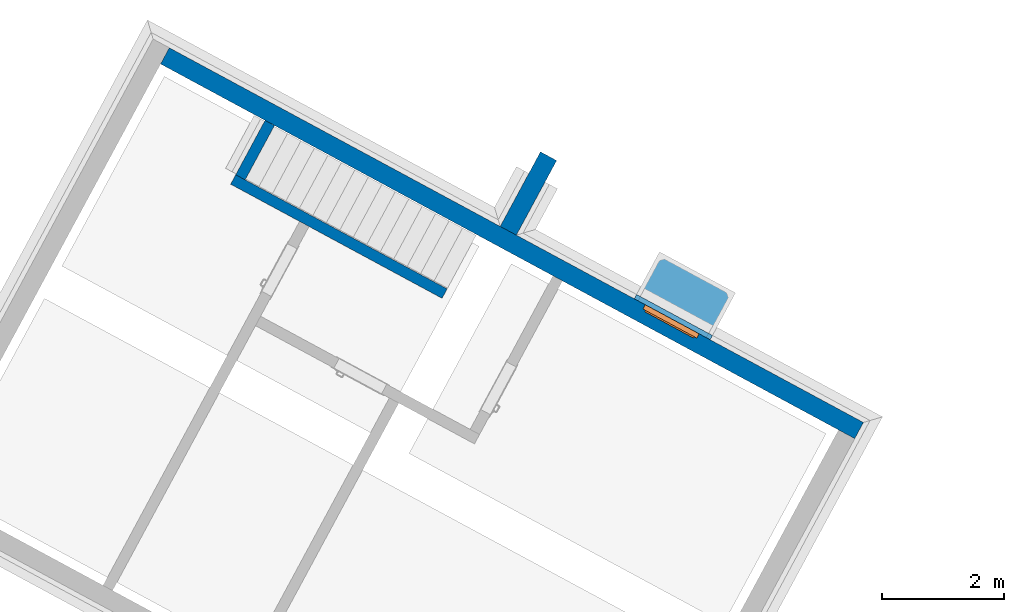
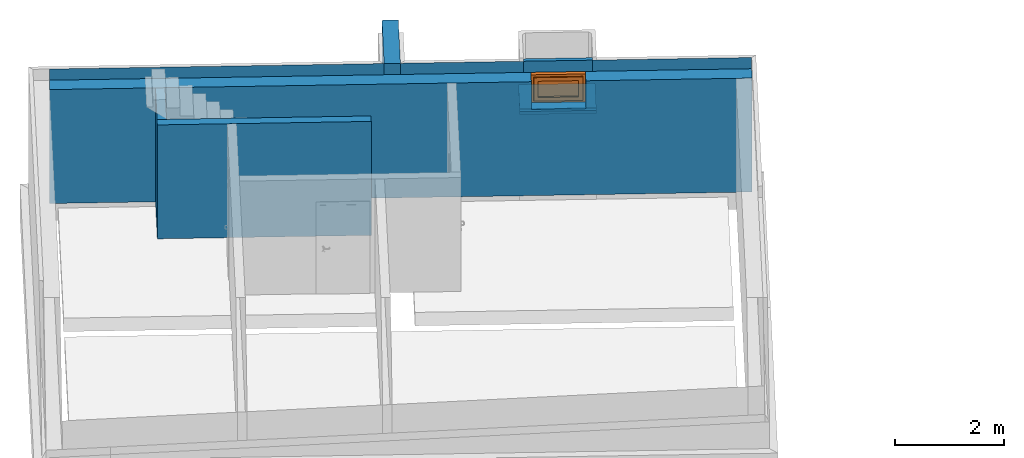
# One storey, part 4 of 7: 7 walls, 1 proxy, 2 openings.
"""IFC2X3 building model written with IfcOpenShell, lengths in metres."""

from ifc_helpers import new_model, entity, si_unit, converted_unit, derived_unit, money_unit, direction, frame, origin_with_axes, origin_2d_with_axis, place, context, subcontext, project, spatial, rectangle, extrude, faceted_brep, material, type_object, element, fill, save


model = new_model("IFC2X3")

# Units and contexts
model_context = context("Model", 3, precision=1e-05, world=origin_with_axes(), true_north=direction((0.0, 1.0)))
body_context = subcontext(model_context, "Body", "Model", "MODEL_VIEW")
ifc_project = project(units=[si_unit("LENGTHUNIT", "METRE"), si_unit("AREAUNIT", "SQUARE_METRE"), si_unit("VOLUMEUNIT", "CUBIC_METRE"), converted_unit("PLANEANGLEUNIT", "DEGREE", entity("IfcPlaneAngleMeasure", 0.0174532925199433), si_unit("PLANEANGLEUNIT", "RADIAN"), dimensions=[0, 0, 0, 0, 0, 0, 0]), money_unit("EUR"), converted_unit("TIMEUNIT", "Year", entity("IfcTimeMeasure", 31556926.0), si_unit("TIMEUNIT", "SECOND"), dimensions=[0, 0, 1, 0, 0, 0, 0]), si_unit("MASSUNIT", "GRAM", prefix="KILO"), si_unit("THERMODYNAMICTEMPERATUREUNIT", "DEGREE_CELSIUS"), si_unit("LUMINOUSINTENSITYUNIT", "LUMEN"), si_unit("ENERGYUNIT", "JOULE", prefix="MEGA"), derived_unit("THERMALCONDUCTANCEUNIT", [(si_unit("POWERUNIT", "WATT"), 1), (si_unit("LENGTHUNIT", "METRE"), -1), (si_unit("THERMODYNAMICTEMPERATUREUNIT", "KELVIN"), -1)]), derived_unit("SPECIFICHEATCAPACITYUNIT", [(si_unit("ENERGYUNIT", "JOULE"), 1), (si_unit("MASSUNIT", "GRAM", prefix="KILO"), -1), (si_unit("THERMODYNAMICTEMPERATUREUNIT", "KELVIN"), -1)]), derived_unit("MASSDENSITYUNIT", [(si_unit("MASSUNIT", "GRAM", prefix="KILO"), 1), (si_unit("VOLUMEUNIT", "CUBIC_METRE"), -1)])], contexts=[model_context])

# Site, building, storey
site_placement = place(None, frame((-3.949935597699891, 1.740105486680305, 0.0), z_axis=(0.0, 0.0, 1.0), x_axis=(0.8799804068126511, -0.475009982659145, 0.0)))
site = spatial("IfcSite", under=ifc_project, at=site_placement, Name="Gelände", CompositionType="ELEMENT")
building_placement = place(site_placement, origin_with_axes())
building = spatial("IfcBuilding", under=site, at=building_placement, Name="Gebäude", CompositionType="ELEMENT")
storey_placement = place(building_placement, frame((0.0, 0.0, -2.98), z_axis=(0.0, 0.0, 1.0), x_axis=(1.0, 0.0, 0.0)))
storey = spatial("IfcBuildingStorey", under=building, at=storey_placement, Name="Kellergeschoss", CompositionType="ELEMENT", Elevation=-2.98)

# Walls
ifc_material_1 = material(Name="_SIWH - MW Kalksandstein")
wall_type_1 = type_object("IfcWallType", Name="_SIWH - WI | KS 17,5 | 17,5cm 175", PredefinedType="NOTDEFINED")
wall_1_placement = place(storey_placement, frame((6.597401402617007, 17.89028332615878, 0.0), z_axis=(0.0, 0.0, 1.0), x_axis=(-5.374643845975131e-06, 0.9999999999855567, 0.0)))
element("IfcWall", 1, at=wall_1_placement, inside=storey, type_object=wall_type_1, material=ifc_material_1, Name="I-Wand034", context=body_context, shape_type="Brep", body=[
    faceted_brep([(1.010001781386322, 0.0, 2.55), (1.010001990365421, 0.1749999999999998, 2.55), (1.25825589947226e-07, 0.1749999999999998, 2.55), (0.0, 0.0, 2.55), (1.010001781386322, 0.0, 0.0), (1.010001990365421, 0.1749999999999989, 0.0), (1.25825589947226e-07, 0.1749999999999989, 0.0), (0.0, 0.0, 0.0)], [[[0, 1, 2, 3]], [[1, 0, 4, 5]], [[1, 5, 6, 2]], [[7, 3, 2, 6]], [[4, 0, 3, 7]], [[5, 4, 7, 6]]]),
])
wall_2_placement = place(storey_placement, frame((10.34740135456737, 17.89030078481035, 0.0), z_axis=(0.0, 0.0, 1.0), x_axis=(-0.9999999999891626, -4.655640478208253e-06, 0.0)))
element("IfcWall", 2, at=wall_2_placement, inside=storey, type_object=wall_type_1, material=ifc_material_1, Name="I-Wand029", context=body_context, shape_type="Brep", body=[
    faceted_brep([(3.924999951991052, 0.0, 2.55), (3.924999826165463, 0.1750000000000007, 2.55), (0.0, 0.1749999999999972, 2.55), (0.0, 0.0, 2.55), (3.924999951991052, 0.0, 0.0), (3.924999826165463, 0.1750000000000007, 0.0), (0.0, 0.1749999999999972, 0.0), (0.0, 0.0, 0.0)], [[[0, 1, 2, 3]], [[1, 0, 4, 5]], [[1, 5, 6, 2]], [[7, 3, 2, 6]], [[4, 0, 3, 7]], [[5, 4, 7, 6]]]),
])

# Wall, opening, proxy
ifc_material_2 = material(Name="_SIWH - Beton, Stahlbeton")
wall_type_2 = type_object("IfcWallType", Name="_SIWH - WA | Stb. 30 | 30cm 300", PredefinedType="NOTDEFINED")
wall_3_placement = place(storey_placement, frame((4.182481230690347, 19.2003203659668, 0.0), z_axis=(0.0, 0.0, 1.0), x_axis=(1.0, 0.0, 0.0)))
wall_3 = element("IfcWall", 3, at=wall_3_placement, inside=storey, type_object=wall_type_2, material=ifc_material_2, Name="A-Wand039", context=body_context, shape_type="Brep", body=[
    faceted_brep([(9.134995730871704, -4.477729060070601e-05, 2.55), (10.1349957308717, -4.497759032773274e-05, 2.55), (13.1849946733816, -4.558850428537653e-05, 2.55), (13.1849946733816, -4.558850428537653e-05, 2.8), (0.3000000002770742, -4.300764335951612e-05, 2.8), (0.3000000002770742, -4.300764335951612e-05, 2.55), (9.134995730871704, 0.0, 2.55), (10.1349957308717, 0.0, 2.55), (10.1349957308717, -0.3000000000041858, 2.55), (13.18499601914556, -0.3000000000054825, 2.55), (13.18499724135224, -0.3000000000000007, 0.0), (13.18499704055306, 0.0, 0.0), (13.18499704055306, 0.0, 2.8), (0.3000000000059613, 0.0, 2.8), (0.3000000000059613, 0.0, 0.0), (0.3000018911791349, -0.3000000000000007, 0.0), (0.3000018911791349, -0.3000000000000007, 2.55), (9.134995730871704, -0.3000000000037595, 2.55), (9.134995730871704, 0.0, 1.925), (10.1349957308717, 0.0, 1.925), (10.1349957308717, -0.3000000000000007, 1.925), (9.134995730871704, -0.3000000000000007, 1.925)], [[[0, 1, 2, 3, 4, 5]], [[6, 7, 1, 0]], [[1, 8, 9, 2]], [[9, 10, 11, 12, 3, 2]], [[13, 4, 3, 12]], [[4, 13, 14, 15, 16, 5]], [[17, 0, 5, 16]], [[13, 12, 11, 14], [18, 19, 7, 6]], [[7, 19, 20, 8, 1]], [[18, 6, 0, 17, 21]], [[21, 17, 16, 15, 10, 9, 8, 20]], [[14, 11, 10, 15]], [[19, 18, 21, 20]]]),
])
opening_1_placement = place(wall_3_placement, frame((9.634995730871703, 0.0, 1.925), z_axis=(0.0, 0.0, 1.0), x_axis=(1.0, 0.0, 0.0)))
opening_1 = element("IfcOpeningElement", 4, at=opening_1_placement, cuts=wall_3, Name="Fenster-016", context=body_context, shape_type="SweptSolid", body=[
    extrude(rectangle(XDim=1.0, YDim=0.625, at=origin_2d_with_axis()), frame((0.0, -0.3000000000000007, 0.3125), z_axis=(0.0, -1.0, 0.0), x_axis=(1.0, 0.0, 0.0)), (0.0, 0.0, -1.0), 0.8999999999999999),
])
building_element_proxy_type = type_object("IfcBuildingElementProxyType", Name="1-Flügelfenster 22", PredefinedType="NOTDEFINED")
proxy_placement = place(opening_1_placement, frame((0.4999999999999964, 0.0, 0.0), z_axis=(0.0, 0.0, 1.0), x_axis=(-1.0, 0.0, 0.0)))
proxy = element("IfcBuildingElementProxy", 5, at=proxy_placement, inside=storey, type_object=building_element_proxy_type, Name="Fenster-016", context=body_context, shape_type="Brep", body=[
    faceted_brep([(1.0, 0.0, 0.0), (0.9000000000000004, 0.0, 0.09999999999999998), (0.9000000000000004, 0.08000000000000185, 0.09999999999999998), (1.0, 0.08000000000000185, 0.0), (1.0, 0.0, 0.625), (0.9000000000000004, 0.0, 0.525), (0.9000000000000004, 0.08000000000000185, 0.525), (1.0, 0.08000000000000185, 0.625)], [[[0, 1, 2, 3]], [[0, 4, 5, 1]], [[1, 5, 6, 2]], [[3, 2, 6, 7]], [[4, 0, 3, 7]], [[5, 4, 7, 6]]]),
    faceted_brep([(0.0, 0.0, 0.0), (0.0, 0.0, 0.625), (0.0, 0.08000000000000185, 0.625), (0.0, 0.08000000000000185, 0.0), (0.09999999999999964, 0.0, 0.09999999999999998), (0.09999999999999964, 0.0, 0.525), (0.09999999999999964, 0.08000000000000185, 0.525), (0.09999999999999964, 0.08000000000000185, 0.09999999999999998)], [[[0, 1, 2, 3]], [[0, 4, 5, 1]], [[1, 5, 6, 2]], [[3, 2, 6, 7]], [[4, 0, 3, 7]], [[5, 4, 7, 6]]]),
    faceted_brep([(1.0, 0.0, 0.0), (0.0, 0.0, 0.0), (0.0, 0.08000000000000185, 0.0), (1.0, 0.08000000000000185, 0.0), (0.9000000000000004, 0.0, 0.09999999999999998), (0.5, 0.0, 0.09999999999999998), (0.09999999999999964, 0.0, 0.09999999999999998), (0.09999999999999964, 0.08000000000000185, 0.09999999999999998), (0.5, 0.08000000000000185, 0.09999999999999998), (0.9000000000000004, 0.08000000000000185, 0.09999999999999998)], [[[0, 1, 2, 3]], [[0, 4, 5, 6, 1]], [[1, 6, 7, 2]], [[3, 2, 7, 8, 9]], [[4, 0, 3, 9]], [[5, 4, 9, 8]], [[6, 5, 8, 7]]]),
    faceted_brep([(1.0, 0.0, 0.625), (0.9000000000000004, 0.0, 0.525), (0.9000000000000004, 0.08000000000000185, 0.525), (1.0, 0.08000000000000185, 0.625), (0.0, 0.0, 0.625), (0.09999999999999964, 0.0, 0.525), (0.5, 0.0, 0.525), (0.5, 0.08000000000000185, 0.525), (0.09999999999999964, 0.08000000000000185, 0.525), (0.0, 0.08000000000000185, 0.625)], [[[0, 1, 2, 3]], [[0, 4, 5, 6, 1]], [[1, 6, 7, 2]], [[3, 2, 7, 8, 9]], [[4, 0, 3, 9]], [[5, 4, 9, 8]], [[6, 5, 8, 7]]]),
    faceted_brep([(0.9499999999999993, 0.08000000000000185, 0.05000000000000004), (0.8699999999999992, 0.08000000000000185, 0.13), (0.8699999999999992, 0.1050000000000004, 0.13), (0.9499999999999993, 0.1050000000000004, 0.05000000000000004), (0.9499999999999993, 0.08000000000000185, 0.5750000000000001), (0.8699999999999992, 0.08000000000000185, 0.495), (0.8699999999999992, 0.1050000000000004, 0.495), (0.9499999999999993, 0.1050000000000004, 0.5750000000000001)], [[[0, 1, 2, 3]], [[0, 4, 5, 1]], [[1, 5, 6, 2]], [[3, 2, 6, 7]], [[4, 0, 3, 7]], [[5, 4, 7, 6]]]),
    faceted_brep([(0.05000000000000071, 0.08000000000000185, 0.05000000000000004), (0.05000000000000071, 0.1050000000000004, 0.05000000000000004), (0.1300000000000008, 0.1050000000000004, 0.13), (0.1300000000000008, 0.08000000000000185, 0.13), (0.05000000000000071, 0.08000000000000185, 0.5750000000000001), (0.05000000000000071, 0.1050000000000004, 0.5750000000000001), (0.1300000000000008, 0.1050000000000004, 0.495), (0.1300000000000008, 0.08000000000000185, 0.495)], [[[0, 1, 2, 3]], [[4, 5, 1, 0]], [[1, 5, 6, 2]], [[3, 2, 6, 7]], [[0, 3, 7, 4]], [[7, 6, 5, 4]]]),
    faceted_brep([(0.9499999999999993, 0.08000000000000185, 0.05000000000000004), (0.05000000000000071, 0.08000000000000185, 0.05000000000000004), (0.05000000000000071, 0.1050000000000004, 0.05000000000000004), (0.9499999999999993, 0.1050000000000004, 0.05000000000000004), (0.8699999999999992, 0.08000000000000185, 0.13), (0.1300000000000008, 0.08000000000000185, 0.13), (0.1300000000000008, 0.1050000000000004, 0.13), (0.8699999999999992, 0.1050000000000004, 0.13)], [[[0, 1, 2, 3]], [[0, 4, 5, 1]], [[1, 5, 6, 2]], [[3, 2, 6, 7]], [[4, 0, 3, 7]], [[5, 4, 7, 6]]]),
    faceted_brep([(0.9499999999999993, 0.08000000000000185, 0.575), (0.9499999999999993, 0.1050000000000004, 0.575), (0.05000000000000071, 0.1050000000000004, 0.575), (0.05000000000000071, 0.08000000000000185, 0.575), (0.8699999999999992, 0.08000000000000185, 0.4949999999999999), (0.8699999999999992, 0.1050000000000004, 0.4949999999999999), (0.1300000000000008, 0.1050000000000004, 0.4949999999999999), (0.1300000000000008, 0.08000000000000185, 0.4949999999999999)], [[[0, 1, 2, 3]], [[4, 5, 1, 0]], [[1, 5, 6, 2]], [[3, 2, 6, 7]], [[0, 3, 7, 4]], [[7, 6, 5, 4]]]),
    faceted_brep([(0.9000000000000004, 0.02500000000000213, 0.09999999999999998), (0.8699999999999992, 0.02500000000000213, 0.13), (0.8699999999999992, 0.08000000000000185, 0.13), (0.9000000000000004, 0.08000000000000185, 0.09999999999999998), (0.9000000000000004, 0.02500000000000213, 0.525), (0.8699999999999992, 0.02500000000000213, 0.495), (0.8699999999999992, 0.08000000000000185, 0.495), (0.9000000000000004, 0.08000000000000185, 0.525)], [[[0, 1, 2, 3]], [[0, 4, 5, 1]], [[1, 5, 6, 2]], [[3, 2, 6, 7]], [[4, 0, 3, 7]], [[5, 4, 7, 6]]]),
    faceted_brep([(0.09999999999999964, 0.02500000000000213, 0.09999999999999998), (0.09999999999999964, 0.08000000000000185, 0.09999999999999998), (0.1300000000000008, 0.08000000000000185, 0.13), (0.1300000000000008, 0.02500000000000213, 0.13), (0.09999999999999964, 0.02500000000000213, 0.525), (0.09999999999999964, 0.08000000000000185, 0.525), (0.1300000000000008, 0.08000000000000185, 0.495), (0.1300000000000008, 0.02500000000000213, 0.495)], [[[0, 1, 2, 3]], [[4, 5, 1, 0]], [[1, 5, 6, 2]], [[3, 2, 6, 7]], [[0, 3, 7, 4]], [[7, 6, 5, 4]]]),
    faceted_brep([(0.9000000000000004, 0.02500000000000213, 0.09999999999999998), (0.09999999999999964, 0.02500000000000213, 0.09999999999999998), (0.09999999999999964, 0.08000000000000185, 0.09999999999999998), (0.9000000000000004, 0.08000000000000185, 0.09999999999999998), (0.8699999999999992, 0.02500000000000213, 0.13), (0.1300000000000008, 0.02500000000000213, 0.13), (0.1300000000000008, 0.08000000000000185, 0.13), (0.8699999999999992, 0.08000000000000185, 0.13)], [[[0, 1, 2, 3]], [[0, 4, 5, 1]], [[1, 5, 6, 2]], [[3, 2, 6, 7]], [[4, 0, 3, 7]], [[5, 4, 7, 6]]]),
    faceted_brep([(0.9000000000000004, 0.02500000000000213, 0.5249999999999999), (0.9000000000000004, 0.08000000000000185, 0.5249999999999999), (0.09999999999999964, 0.08000000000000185, 0.5249999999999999), (0.09999999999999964, 0.02500000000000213, 0.5249999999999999), (0.8699999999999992, 0.02500000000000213, 0.4949999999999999), (0.8699999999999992, 0.08000000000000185, 0.4949999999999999), (0.1300000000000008, 0.08000000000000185, 0.4949999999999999), (0.1300000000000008, 0.02500000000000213, 0.4949999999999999)], [[[0, 1, 2, 3]], [[4, 5, 1, 0]], [[1, 5, 6, 2]], [[3, 2, 6, 7]], [[0, 3, 7, 4]], [[7, 6, 5, 4]]]),
    faceted_brep([(0.8699999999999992, 0.06000000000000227, 0.13), (0.1300000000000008, 0.06000000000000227, 0.13), (0.1300000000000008, 0.07000000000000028, 0.13), (0.8699999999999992, 0.07000000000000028, 0.13), (0.8699999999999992, 0.06000000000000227, 0.495), (0.1300000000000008, 0.06000000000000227, 0.495), (0.1300000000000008, 0.07000000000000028, 0.495), (0.8699999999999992, 0.07000000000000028, 0.495)], [[[0, 1, 2, 3]], [[0, 4, 5, 1]], [[1, 5, 6, 2]], [[3, 2, 6, 7]], [[4, 0, 3, 7]], [[5, 4, 7, 6]]]),
])
fill(opening_1, proxy)

# Walls
wall_4_placement = place(storey_placement, frame((10.77500603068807, 19.2003203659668, 0.0), z_axis=(0.0, 0.0, 1.0), x_axis=(0.0, 1.0, 0.0)))
element("IfcWall", 6, at=wall_4_placement, inside=storey, type_object=wall_type_2, material=ifc_material_2, Name="A-Wand024", context=body_context, shape_type="Brep", body=[
    faceted_brep([(0.0, -0.1500000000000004, 2.8), (1.384955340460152, -0.1500000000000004, 2.8), (1.384955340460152, 0.1500000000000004, 2.8), (0.0, 0.1500000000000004, 2.8), (0.0, -0.1500000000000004, 0.0), (1.384955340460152, -0.1500000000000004, 0.0), (1.384955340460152, 0.1500000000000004, 0.0), (0.0, 0.1500000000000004, 0.0)], [[[0, 1, 2, 3]], [[4, 5, 1, 0]], [[2, 1, 5, 6]], [[3, 2, 6, 7]], [[4, 0, 3, 7]], [[7, 6, 5, 4]]]),
])
ifc_material_3 = material(Name="_SIWH - Dämmung, hart Mineralwolle")
wall_type_3 = type_object("IfcWallType", Name="_SIWH - Dämmung, hart Mineralwolle 70", PredefinedType="NOTDEFINED")
wall_5_placement = place(storey_placement, frame((13.11247696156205, 19.2003203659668, 1.675), z_axis=(0.0, 0.0, 1.0), x_axis=(1.0, 0.0, 0.0)))
element("IfcWall", 7, at=wall_5_placement, inside=storey, type_object=wall_type_3, material=ifc_material_3, Name="Decke024", context=body_context, shape_type="Brep", body=[
    faceted_brep([(1.41, 0.0, 0.0), (0.0, 0.0, 0.0), (0.0, 0.0, -0.07000000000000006), (1.41, 0.0, -0.07000000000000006), (1.41, 0.08000000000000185, 0.0), (-3.209472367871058e-07, 0.08000000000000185, 0.0), (-3.209472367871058e-07, 0.08000000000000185, -0.07000000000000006), (1.41, 0.08000000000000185, -0.07000000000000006)], [[[0, 1, 2, 3]], [[4, 5, 1, 0]], [[1, 5, 6, 2]], [[7, 3, 2, 6]], [[4, 0, 3, 7]], [[5, 4, 7, 6]]]),
])
ifc_material_4 = material(Name="_SIWH - Beton, Stahlbeton Fertigteil")
wall_type_4 = type_object("IfcWallType", Name="_SIWH - Beton, Stahlbeton Fertigteil 70", PredefinedType="NOTDEFINED")
wall_6_placement = place(storey_placement, frame((14.52247696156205, 19.2803203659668, 1.676548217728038), z_axis=(0.0, 0.0, 1.0), x_axis=(1.0, 0.0, 0.0)))
element("IfcWall", 8, at=wall_6_placement, inside=storey, type_object=wall_type_4, material=ifc_material_4, Name="Decke025", context=body_context, shape_type="Brep", body=[
    faceted_brep([(-1.410003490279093, 0.7899944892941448, -0.07000000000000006), (-1.409999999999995, 0.7899944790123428, -0.001548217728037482), (0.0, 0.7899944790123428, -0.001548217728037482), (0.0, 0.7899944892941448, -0.07000000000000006), (-1.410000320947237, 0.0, -0.07000000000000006), (-1.409999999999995, -5.521881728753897e-06, -0.001548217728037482), (-0.06999998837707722, -5.521881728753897e-06, -0.001548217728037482), (0.0, -5.521881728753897e-06, -0.001548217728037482), (-1.339999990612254, -5.521881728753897e-06, -0.001548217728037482), (-1.339999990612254, 0.6616424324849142, -0.001548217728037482), (-1.281246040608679, 0.7198860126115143, -0.001548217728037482), (-0.128753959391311, 0.7198860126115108, -0.001548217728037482), (-0.07000000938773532, 0.6616424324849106, -0.001548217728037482), (0.0, 0.0, -0.07000000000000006), (-1.339999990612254, -5.521881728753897e-06, 0.0), (-0.06999998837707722, -5.521881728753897e-06, 0.0), (-1.339999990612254, 0.6616424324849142, 0.0), (-1.281246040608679, 0.7198860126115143, 0.0), (-0.128753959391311, 0.7198860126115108, 0.0), (-0.07000000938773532, 0.6616424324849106, 0.0)], [[[0, 1, 2, 3]], [[4, 5, 1, 0]], [[6, 7, 2, 1, 5, 8, 9, 10, 11, 12]], [[3, 2, 7, 13]], [[0, 3, 13, 4]], [[14, 8, 5, 4, 13, 7, 6, 15]], [[8, 14, 16, 9]], [[9, 16, 17, 10]], [[10, 17, 18, 11]], [[11, 18, 19, 12]], [[12, 19, 15, 6]], [[17, 16, 14, 15, 19, 18]]]),
])

# Wall, opening
ifc_material_5 = material(Name="_SIWH - Dämmung, Perimeterdämmung")
wall_type_5 = type_object("IfcWallType", Name="_SIWH - WA | Perimeterdämmung 8 | 8cm 80", PredefinedType="NOTDEFINED")
wall_7_placement = place(storey_placement, frame((14.45247696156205, 19.20034515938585, 1.675), z_axis=(0.0, 0.0, 1.0), x_axis=(-0.9999999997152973, -2.386221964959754e-05, 0.0)))
wall_7 = element("IfcWall", 9, at=wall_7_placement, inside=storey, type_object=wall_type_5, material=ifc_material_5, Name="A-Wand029", context=body_context, shape_type="Brep", body=[
    faceted_brep([(0.1350000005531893, 0.0, 0.25), (1.039024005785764, 0.0, 0.25), (1.039024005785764, 0.0, 0.0), (0.0, 0.0, 0.0), (0.0, 0.0, 1.125), (1.039024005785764, 0.0, 1.125), (1.039024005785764, 0.0, 0.875), (0.1350000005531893, 0.0, 0.875), (0.1350000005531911, -0.0799999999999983, 0.25), (1.135000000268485, -0.0799999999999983, 0.25), (1.135000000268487, -2.290200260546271e-06, 0.25), (1.135000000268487, -2.290200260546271e-06, 0.875), (1.270000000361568, -5.511599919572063e-06, 1.125), (1.270000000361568, -5.511599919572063e-06, 0.0), (-1.908254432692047e-06, -0.07996969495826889, 0.0), (1.270000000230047, -0.08000551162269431, 0.0), (-1.920599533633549e-06, -0.07999999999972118, 1.125), (-1.919877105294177e-06, -0.07996968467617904, 0.00154821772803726), (-1.920599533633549e-06, -0.07999999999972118, 0.001548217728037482), (1.270000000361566, -0.0799999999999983, 1.125), (1.135000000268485, -0.0799999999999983, 0.875), (0.1350000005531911, -0.0799999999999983, 0.875), (1.270000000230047, -0.08000551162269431, 0.001548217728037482)], [[[0, 1, 2, 3, 4, 5, 6, 7]], [[8, 9, 10, 1, 0]], [[11, 6, 5, 12, 13, 2, 1, 10]], [[14, 3, 2, 13, 15]], [[16, 4, 3, 14, 17, 18]], [[19, 12, 5, 4, 16]], [[20, 21, 7, 6, 11]], [[21, 8, 0, 7]], [[16, 18, 22, 19], [9, 8, 21, 20]], [[9, 20, 11, 10]], [[15, 13, 12, 19, 22]], [[22, 17, 14, 15]], [[22, 18, 17]]]),
])
opening_2_placement = place(wall_7_placement, frame((0.6350000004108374, 0.0, 0.25), z_axis=(0.0, 0.0, 1.0), x_axis=(1.0, 0.0, 0.0)))
element("IfcOpeningElement", 10, at=opening_2_placement, cuts=wall_7, Name="Tür-026", context=body_context, shape_type="SweptSolid", body=[
    extrude(rectangle(XDim=0.9999999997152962, YDim=0.625, at=origin_2d_with_axis()), frame((0.0, 0.08000000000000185, 0.3125), z_axis=(0.0, -1.0, 0.0), x_axis=(1.0, 0.0, 0.0)), (0.0, 0.0, 1.0), 0.24),
])

save(model, "model.ifc")
